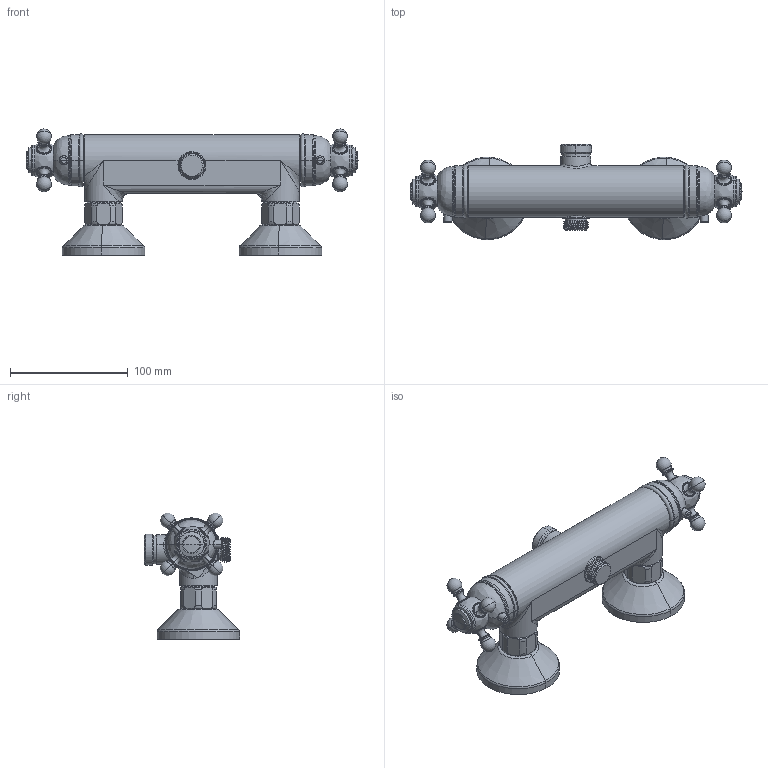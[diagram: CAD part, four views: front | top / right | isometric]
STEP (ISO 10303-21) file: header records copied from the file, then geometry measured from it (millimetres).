
FILE_DESCRIPTION((''),'2;1');
FILE_NAME('37423--_STEP_SW0001','2026-10-01T14:41:44',('simi1'),(''),'CREO PARAMETRIC BY PTC INC, 2022244','CREO PARAMETRIC BY PTC INC, 2022244','');
FILE_SCHEMA(('CONFIG_CONTROL_DESIGN'));
Length unit declared in the file: millimetre
Products named in the file (1): 37423--_STEP_SW0001
Bounding box: 281.6 x 80.7 x 106.91 mm (x, y, z)
Surface area: 80727 mm2 (no closed solid volume)
Topology: 0 solids, 27 shells, 383 faces, 906 edges, 513 vertices
Faces by surface type: torus 162, bspline 66, cylinder 64, cone 34, plane 33, sphere 24
Entity records: 16731 total; most frequent: CARTESIAN_POINT 8393, DIRECTION 1863, ORIENTED_EDGE 1669, EDGE_CURVE 882, AXIS2_PLACEMENT_3D 870, CIRCLE 553, VERTEX_POINT 513, EDGE_LOOP 383
